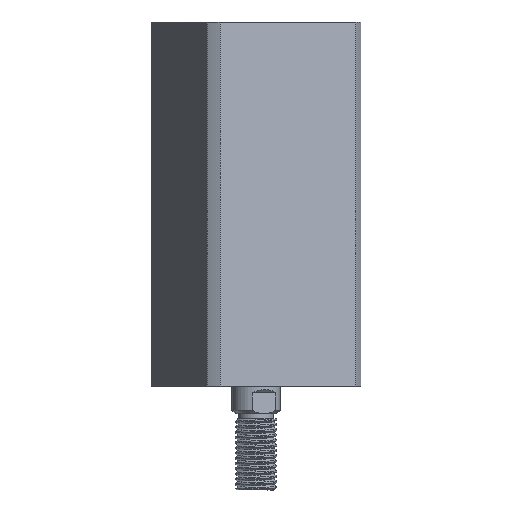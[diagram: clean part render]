
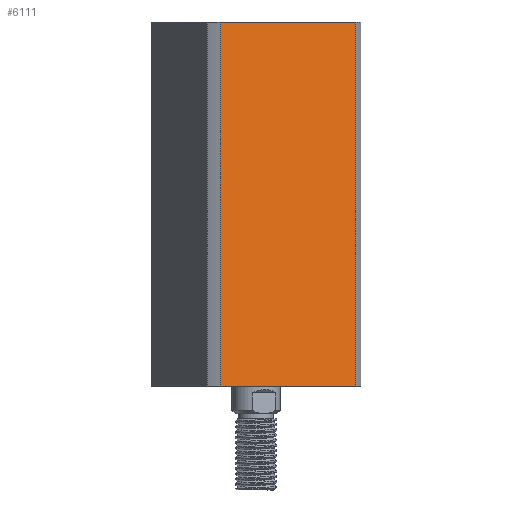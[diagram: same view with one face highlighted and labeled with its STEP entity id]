
A CAD part, left-side view. The second image highlights one B-rep face of the part: STEP entity #6111.
In plain terms, the highlighted planar face has unit normal (-0.924, -0.383, 0) as drawn and (1, 0, 0) by its records, which use the part's own axes.
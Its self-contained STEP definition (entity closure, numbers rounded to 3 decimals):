
#432 = LINE ( 'NONE', #653, #9044 ) ;
#631 = EDGE_LOOP ( 'NONE', ( #10399, #8665, #3244, #5092 ) ) ;
#653 = CARTESIAN_POINT ( 'NONE',  ( 24., 21.166, -195. ) ) ;
#1020 = VECTOR ( 'NONE', #9776, 1000. ) ;
#1126 = DIRECTION ( 'NONE',  ( 0., 0., 1. ) ) ;
#1275 = LINE ( 'NONE', #8941, #1020 ) ;
#1411 = FACE_OUTER_BOUND ( 'NONE', #631, .T. ) ;
#1530 = PLANE ( 'NONE',  #6429 ) ;
#1982 = CARTESIAN_POINT ( 'NONE',  ( 24., -21.166, -195. ) ) ;
#2371 = DIRECTION ( 'NONE',  ( 0., -1., 0. ) ) ;
#2501 = VERTEX_POINT ( 'NONE', #2569 ) ;
#2569 = CARTESIAN_POINT ( 'NONE',  ( 24., -21.166, 105. ) ) ;
#3003 = EDGE_CURVE ( 'NONE', #3122, #2501, #4396, .T. ) ;
#3122 = VERTEX_POINT ( 'NONE', #6167 ) ;
#3244 = ORIENTED_EDGE ( 'NONE', *, *, #8737, .F. ) ;
#3705 = CARTESIAN_POINT ( 'NONE',  ( 24., 21.166, 0. ) ) ;
#3841 = DIRECTION ( 'NONE',  ( 0., 1., 0. ) ) ;
#4396 = LINE ( 'NONE', #1982, #6328 ) ;
#4686 = CARTESIAN_POINT ( 'NONE',  ( 24., 24., 105. ) ) ;
#4841 = CARTESIAN_POINT ( 'NONE',  ( 24., 24., 105. ) ) ;
#5092 = ORIENTED_EDGE ( 'NONE', *, *, #10762, .F. ) ;
#5536 = VERTEX_POINT ( 'NONE', #8401 ) ;
#6111 = ADVANCED_FACE ( 'NONE', ( #1411 ), #1530, .F. ) ;
#6167 = CARTESIAN_POINT ( 'NONE',  ( 24., -21.166, 0. ) ) ;
#6328 = VECTOR ( 'NONE', #1126, 1000. ) ;
#6429 = AXIS2_PLACEMENT_3D ( 'NONE', #4841, #7382, #2371 ) ;
#6499 = DIRECTION ( 'NONE',  ( 0., 0., -1. ) ) ;
#6708 = EDGE_CURVE ( 'NONE', #3122, #9769, #1275, .T. ) ;
#7382 = DIRECTION ( 'NONE',  ( -1., 0., 0. ) ) ;
#7573 = LINE ( 'NONE', #4686, #7832 ) ;
#7832 = VECTOR ( 'NONE', #3841, 1000. ) ;
#8401 = CARTESIAN_POINT ( 'NONE',  ( 24., 21.166, 105. ) ) ;
#8665 = ORIENTED_EDGE ( 'NONE', *, *, #6708, .T. ) ;
#8737 = EDGE_CURVE ( 'NONE', #5536, #9769, #432, .T. ) ;
#8941 = CARTESIAN_POINT ( 'NONE',  ( 24., 24., 0. ) ) ;
#9044 = VECTOR ( 'NONE', #6499, 1000. ) ;
#9769 = VERTEX_POINT ( 'NONE', #3705 ) ;
#9776 = DIRECTION ( 'NONE',  ( 0., 1., 0. ) ) ;
#10399 = ORIENTED_EDGE ( 'NONE', *, *, #3003, .F. ) ;
#10762 = EDGE_CURVE ( 'NONE', #2501, #5536, #7573, .T. ) ;
